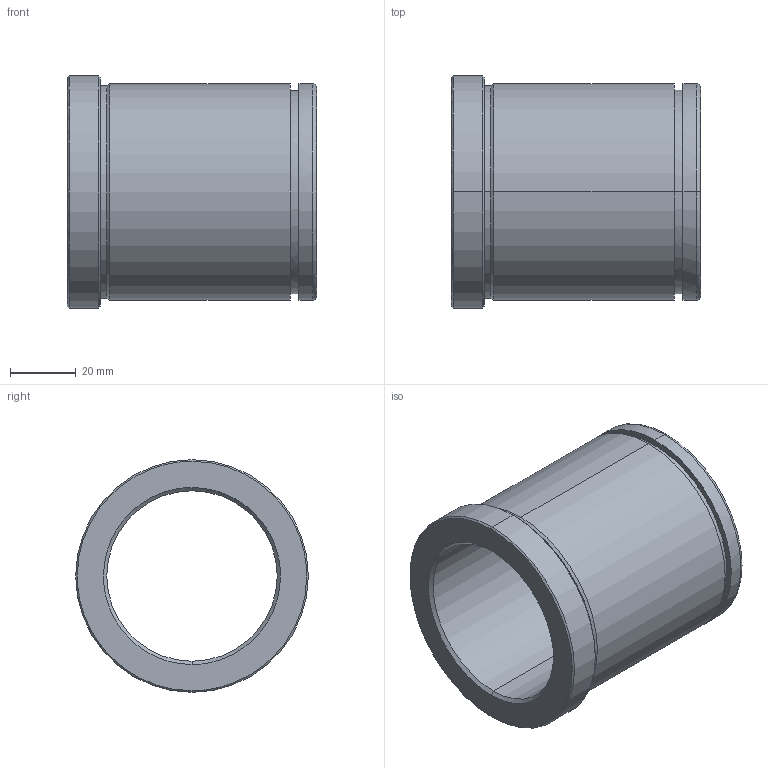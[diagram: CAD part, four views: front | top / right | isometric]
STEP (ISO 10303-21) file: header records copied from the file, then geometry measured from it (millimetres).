
FILE_DESCRIPTION(('CATIA V5 STEP Exchange'),'2;1');
FILE_NAME('C:\Users\Utente\Desktop\IO LAVORO\3D X SITO CF\X SITO\PLASTICA\553\553-52X76.stp','2021-06-08T18:03:43+00:00',('none'),('none'),'CATIA Version 5 Release 20 GA (IN-10)','CATIA V5 STEP AP203','none');
FILE_SCHEMA(('CONFIG_CONTROL_DESIGN'));
Length unit declared in the file: millimetre
Products named in the file (1): 553-52X76
Bounding box: 76 x 71 x 71 mm (x, y, z)
Volume: 102246.7 mm3; surface area: 32389.9 mm2
Topology: 1 solids, 1 shells, 29 faces, 92 edges, 68 vertices
Faces by surface type: cylinder 12, cone 8, plane 5, torus 4
Entity records: 1228 total; most frequent: CARTESIAN_POINT 374, ORIENTED_EDGE 184, DIRECTION 136, EDGE_CURVE 92, AXIS2_PLACEMENT_3D 88, VERTEX_POINT 68, CIRCLE 58, EDGE_LOOP 34
